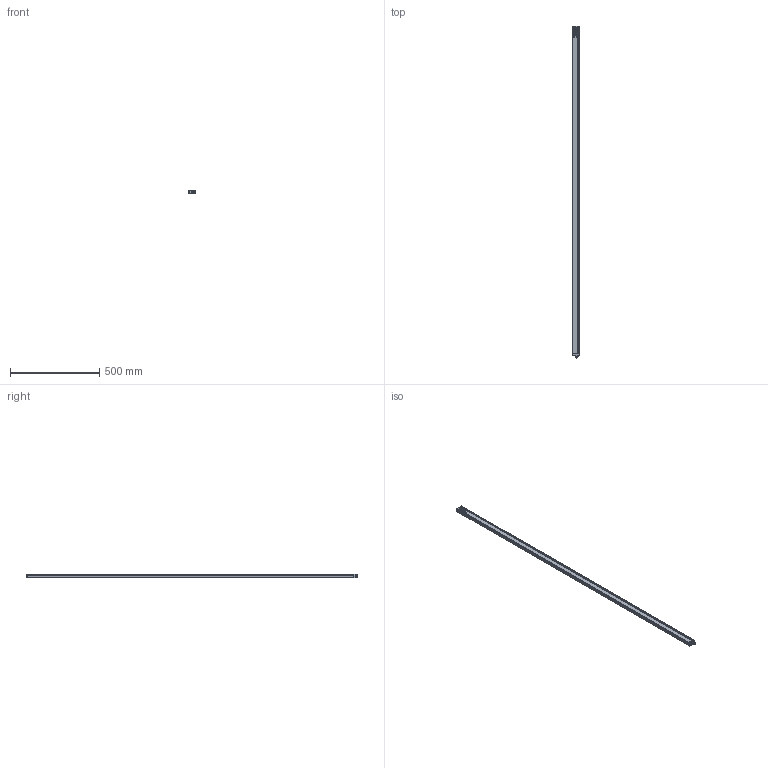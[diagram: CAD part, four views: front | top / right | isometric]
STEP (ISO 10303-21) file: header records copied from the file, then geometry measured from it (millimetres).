
FILE_DESCRIPTION(/* description */ (''),/* implementation_level */ '2;1');
FILE_NAME(/* name */ 'C:\Users\andre\SynologyDrive\Optoscan\Libreria Componenti\00 - Barriere\Polaris sorgente\Barriera Polaris RX\Polaris_1820_RX.stp',/* time_stamp */ '2021-06-04T11:57:34+02:00',/* author */ ('andre'),/* organization */ (''),/* preprocessor_version */ 'ST-DEVELOPER v18',/* originating_system */ 'Autodesk Inventor 2020',/* authorisation */ '');
FILE_SCHEMA (('AUTOMOTIVE_DESIGN { 1 0 10303 214 3 1 1 }'));
Length unit declared in the file: millimetre
Products named in the file (1): Polaris_1820_RX
Bounding box: 40.5 x 1857.3 x 20.75 mm (x, y, z)
Volume: 366312.2 mm3; surface area: 485457.7 mm2
Topology: 1 solids, 1 shells, 700 faces, 1926 edges, 1237 vertices
Faces by surface type: plane 319, cylinder 199, bspline 94, torus 70, sphere 10, cone 8
Full cylindrical faces by diameter (mm): 1 x8, 2.459 x4, 2.5 x4, 3 x4, 3.5 x4, 5.5 x4, 8 x1, 10.5 x2, 11.75 x9, 15.7 x1, 17.5 x1
Entity records: 28472 total; most frequent: CARTESIAN_POINT 10246, ORIENTED_EDGE 3826, DIRECTION 3447, EDGE_CURVE 1913, VERTEX_POINT 1237, AXIS2_PLACEMENT_3D 1211, LINE 1025, VECTOR 1025
